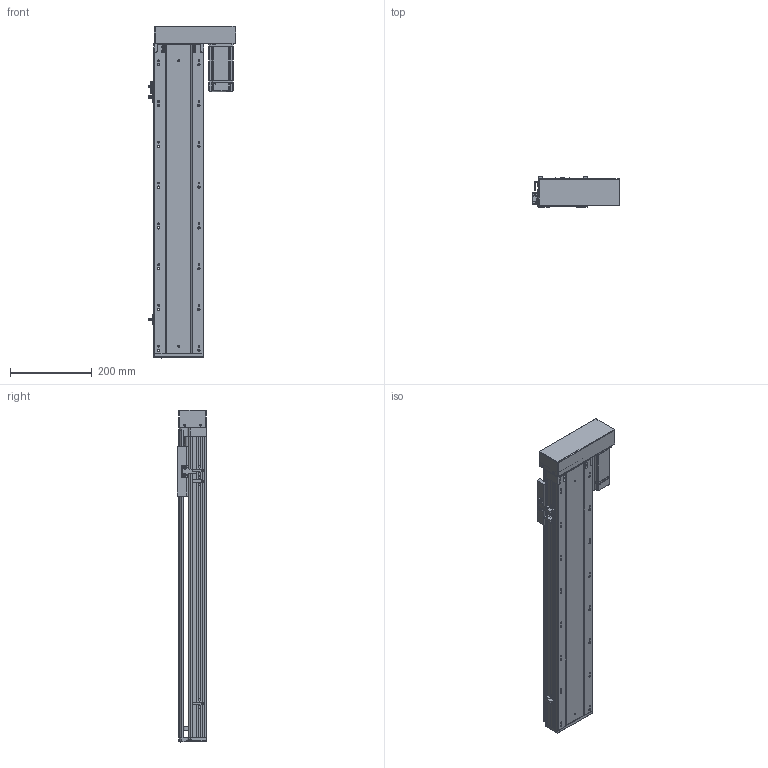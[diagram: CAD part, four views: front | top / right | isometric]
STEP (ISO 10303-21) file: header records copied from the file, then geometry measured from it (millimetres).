
FILE_DESCRIPTION (( 'STEP AP203' ), '1' );
FILE_NAME ('RY120-L1620-300-RK.SLDASM_550.step', '2021-02-22T02:29:55', ( '盈信电脑' ), ( '东莞市道滘镇水果街19号' ), 'SwSTEP 2.0', 'SolidWorks 2012', '' );
FILE_SCHEMA (( 'CONFIG_CONTROL_DESIGN' ));
Products named in the file (14): RY120蛌殏萇儂欶; RY120-L1620-300-RK.SLDASM_550; 15; RY120酘殏萇儂假蚾啣; RY120转拆电端丝杆支撑座; 侂狟400W侜督萇儂; RY120外置感应片(140共用）; 滅袉蝶18-24; 滅袉蝶18-10; 覜茼ん672; RY120綴裔啣; RY120臏賑輸; RY120-300-RK蛌殏倰第奻裔啣_550; RY120-300-RK蛌殏倰第菁釱_550
Assembly tree (16 placements, depth 3):
  RY120-L1620-300-RK.SLDASM_550
    RY120-300-RK蛌殏倰第菁釱_550
    RY120-300-RK蛌殏倰第奻裔啣_550
    RY120臏賑輸
    RY120綴裔啣
    覜茼ん672  x3
    滅袉蝶18-10
    滅袉蝶18-24  x2
    RY120外置感应片(140共用）
    RY120转拆电端丝杆支撑座
    RY120酘殏萇儂假蚾啣
    侂狟400W侜督萇儂
      15
    RY120蛌殏萇儂欶
Bounding box: 214.4 x 73 x 814 mm (x, y, z)
Volume: 2600542.7 mm3; surface area: 925406.8 mm2
Topology: 16 solids, 16 shells, 2442 faces, 6727 edges, 4318 vertices
Faces by surface type: plane 1226, cylinder 910, cone 201, bspline 105
Entity records: 81156 total; most frequent: CARTESIAN_POINT 23003, ORIENTED_EDGE 12182, DIRECTION 11187, EDGE_CURVE 6091, VERTEX_POINT 3986, LINE 3765, VECTOR 3765, AXIS2_PLACEMENT_3D 3711
